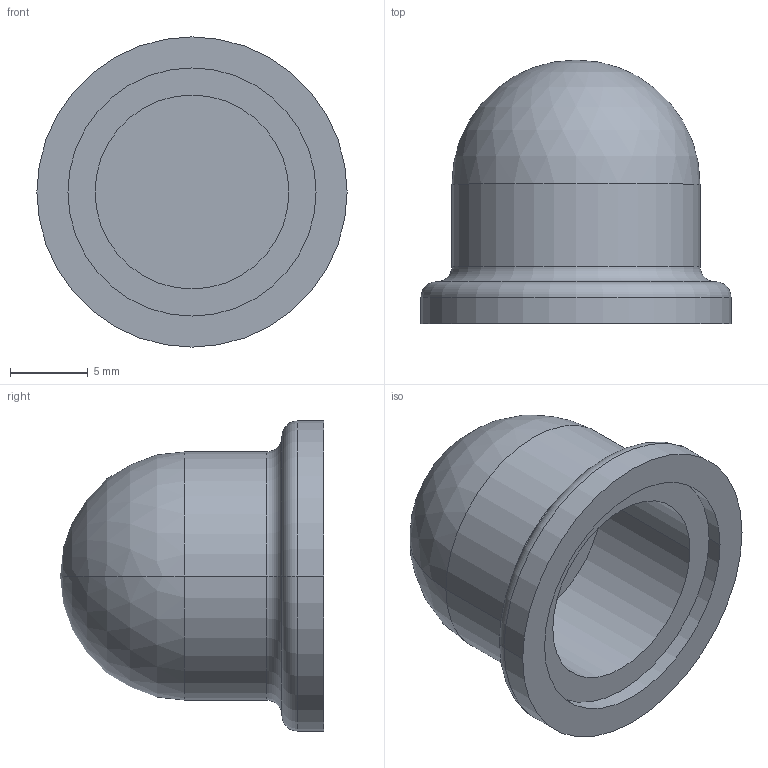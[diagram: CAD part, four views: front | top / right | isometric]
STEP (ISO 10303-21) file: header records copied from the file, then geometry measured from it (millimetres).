
FILE_DESCRIPTION(('Creo Elements/Direct Modeling STEP Export'),'2;1');
FILE_NAME('Abdeckkappe_12er.stp','2015-05-23T23:02:44',(''),(''),'Creo Elements/Direct Modeling STEP processor for AP214 (Solid Model)','Creo Elements/Direct Modeling 18.1C 24-Feb-2013 (C) Parametric Technology GmbH','');
FILE_SCHEMA(('AUTOMOTIVE_DESIGN { 1 0 10303 214 1 1 1 1 }'));
Length unit declared in the file: millimetre
Products named in the file (1): 1
Bounding box: 20 x 17 x 20 mm (x, y, z)
Volume: 2002.3 mm3; surface area: 1631.6 mm2
Topology: 1 solids, 1 shells, 17 faces, 34 edges, 19 vertices
Faces by surface type: cylinder 8, torus 4, plane 3, sphere 2
Entity records: 406 total; most frequent: DIRECTION 72, ORIENTED_EDGE 64, CARTESIAN_POINT 59, AXIS2_PLACEMENT_3D 32, EDGE_CURVE 32, VERTEX_POINT 19, EDGE_LOOP 19, FACE_OUTER_BOUND 17
